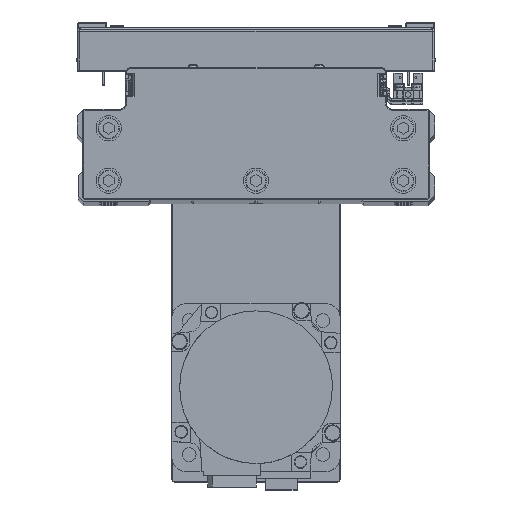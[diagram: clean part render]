
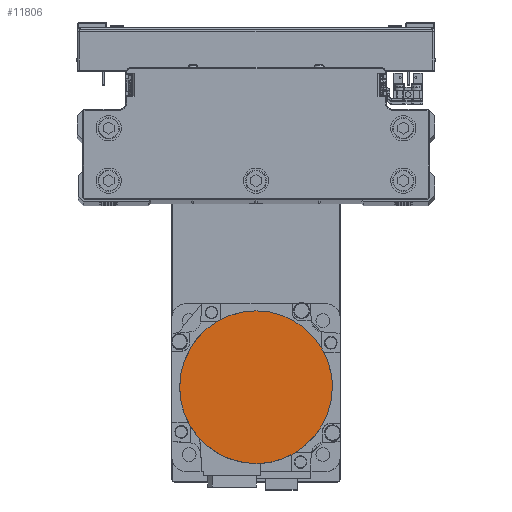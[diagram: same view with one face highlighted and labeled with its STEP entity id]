
A CAD part, top view. The second image highlights one B-rep face of the part: STEP entity #11806.
In plain terms, the highlighted planar face has unit normal (0, 0, 1) as drawn and (0, 0, -1) by its records, which use the part's own axes.
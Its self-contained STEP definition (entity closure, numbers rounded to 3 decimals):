
#858 = CARTESIAN_POINT ( 'NONE',  ( -18.192, 31.502, -122.2 ) ) ;
#1519 = ORIENTED_EDGE ( 'NONE', *, *, #21648, .F. ) ;
#1570 = CARTESIAN_POINT ( 'NONE',  ( -22.143, -28.862, -122.2 ) ) ;
#1579 = B_SPLINE_CURVE_WITH_KNOTS ( 'NONE', 3,
 ( #7675, #21472, #35300, #4251, #18066, #31915, #858, #14682, #28510, #42333, #11303, #25113, #38926, #7890, #21683, #35517, #4470, #18281 ),
 .UNSPECIFIED., .F., .F.,
 ( 4, 2, 2, 2, 2, 2, 2, 2, 4 ),
 ( 0., 0.125, 0.25, 0.375, 0.5, 0.625, 0.75, 0.875, 1. ),
 .UNSPECIFIED. ) ;
#4251 = CARTESIAN_POINT ( 'NONE',  ( -9.412, 35.139, -122.2 ) ) ;
#4470 = CARTESIAN_POINT ( 'NONE',  ( -36.3, 2.376, -122.2 ) ) ;
#4985 = CARTESIAN_POINT ( 'NONE',  ( -28.862, -22.143, -122.2 ) ) ;
#7163 = CARTESIAN_POINT ( 'NONE',  ( 0., 0., -122.2 ) ) ;
#7675 = CARTESIAN_POINT ( 'NONE',  ( 0., 36.3, -122.2 ) ) ;
#7890 = CARTESIAN_POINT ( 'NONE',  ( -34.446, 11.696, -122.2 ) ) ;
#8400 = CARTESIAN_POINT ( 'NONE',  ( -34.446, -11.696, -122.2 ) ) ;
#8613 = CARTESIAN_POINT ( 'NONE',  ( 0., -36.3, -122.2 ) ) ;
#10516 = EDGE_CURVE ( 'NONE', #23339, #13774, #12918, .T. ) ;
#10985 = CARTESIAN_POINT ( 'NONE',  ( -36.3, 0., -122.2 ) ) ;
#11303 = CARTESIAN_POINT ( 'NONE',  ( -28.862, 22.143, -122.2 ) ) ;
#11546 = VERTEX_POINT ( 'NONE', #31546 ) ;
#11792 = CARTESIAN_POINT ( 'NONE',  ( -36.3, -2.376, -122.2 ) ) ;
#11806 = ADVANCED_FACE ( 'NONE', ( #16069 ), #29896, .F. ) ;
#12020 = CARTESIAN_POINT ( 'NONE',  ( -9.412, -35.139, -122.2 ) ) ;
#12694 = DIRECTION ( 'NONE',  ( 0., 0., 1. ) ) ;
#12918 = B_SPLINE_CURVE_WITH_KNOTS ( 'NONE', 3,
 ( #42832, #11792, #25609, #39440, #8400, #22193, #36021, #4985, #18791, #32633, #1570, #15405, #29231, #43059, #12020, #25836, #39660, #8613 ),
 .UNSPECIFIED., .F., .F.,
 ( 4, 2, 2, 2, 2, 2, 2, 2, 4 ),
 ( 0., 0.125, 0.25, 0.375, 0.5, 0.625, 0.75, 0.875, 1. ),
 .UNSPECIFIED. ) ;
#13713 = ORIENTED_EDGE ( 'NONE', *, *, #10516, .F. ) ;
#13774 = VERTEX_POINT ( 'NONE', #44241 ) ;
#14598 = CARTESIAN_POINT ( 'NONE',  ( 0., 0., -122.2 ) ) ;
#14666 = CIRCLE ( 'NONE', #39985, 36.3 ) ;
#14682 = CARTESIAN_POINT ( 'NONE',  ( -22.143, 28.862, -122.2 ) ) ;
#15405 = CARTESIAN_POINT ( 'NONE',  ( -18.192, -31.502, -122.2 ) ) ;
#16069 = FACE_OUTER_BOUND ( 'NONE', #43872, .T. ) ;
#17938 = CIRCLE ( 'NONE', #43276, 36.3 ) ;
#18066 = CARTESIAN_POINT ( 'NONE',  ( -11.696, 34.446, -122.2 ) ) ;
#18281 = CARTESIAN_POINT ( 'NONE',  ( -36.3, 0., -122.2 ) ) ;
#18791 = CARTESIAN_POINT ( 'NONE',  ( -27.348, -23.988, -122.2 ) ) ;
#20967 = DIRECTION ( 'NONE',  ( 0., 0., 1. ) ) ;
#21472 = CARTESIAN_POINT ( 'NONE',  ( -2.376, 36.3, -122.2 ) ) ;
#21648 = EDGE_CURVE ( 'NONE', #13774, #11546, #17938, .T. ) ;
#21683 = CARTESIAN_POINT ( 'NONE',  ( -35.139, 9.412, -122.2 ) ) ;
#22193 = CARTESIAN_POINT ( 'NONE',  ( -32.628, -16.086, -122.2 ) ) ;
#23339 = VERTEX_POINT ( 'NONE', #10985 ) ;
#25113 = CARTESIAN_POINT ( 'NONE',  ( -31.502, 18.192, -122.2 ) ) ;
#25609 = CARTESIAN_POINT ( 'NONE',  ( -36.066, -4.752, -122.2 ) ) ;
#25836 = CARTESIAN_POINT ( 'NONE',  ( -4.752, -36.066, -122.2 ) ) ;
#26237 = CARTESIAN_POINT ( 'NONE',  ( 0., 36.3, -122.2 ) ) ;
#26509 = DIRECTION ( 'NONE',  ( 1., 0., 0. ) ) ;
#28419 = DIRECTION ( 'NONE',  ( 0., 0., 1. ) ) ;
#28510 = CARTESIAN_POINT ( 'NONE',  ( -23.988, 27.348, -122.2 ) ) ;
#29231 = CARTESIAN_POINT ( 'NONE',  ( -16.086, -32.628, -122.2 ) ) ;
#29896 = PLANE ( 'NONE',  #36297 ) ;
#31546 = CARTESIAN_POINT ( 'NONE',  ( 36.3, 0., -122.2 ) ) ;
#31915 = CARTESIAN_POINT ( 'NONE',  ( -16.086, 32.628, -122.2 ) ) ;
#32633 = CARTESIAN_POINT ( 'NONE',  ( -23.988, -27.348, -122.2 ) ) ;
#32845 = ORIENTED_EDGE ( 'NONE', *, *, #41109, .F. ) ;
#34800 = DIRECTION ( 'NONE',  ( -1., 0., 0. ) ) ;
#35300 = CARTESIAN_POINT ( 'NONE',  ( -4.752, 36.066, -122.2 ) ) ;
#35517 = CARTESIAN_POINT ( 'NONE',  ( -36.066, 4.752, -122.2 ) ) ;
#36021 = CARTESIAN_POINT ( 'NONE',  ( -31.502, -18.192, -122.2 ) ) ;
#36297 = AXIS2_PLACEMENT_3D ( 'NONE', #43733, #12694, #26509 ) ;
#38926 = CARTESIAN_POINT ( 'NONE',  ( -32.628, 16.086, -122.2 ) ) ;
#39440 = CARTESIAN_POINT ( 'NONE',  ( -35.139, -9.412, -122.2 ) ) ;
#39571 = EDGE_CURVE ( 'NONE', #43632, #23339, #1579, .T. ) ;
#39660 = CARTESIAN_POINT ( 'NONE',  ( -2.376, -36.3, -122.2 ) ) ;
#39985 = AXIS2_PLACEMENT_3D ( 'NONE', #7163, #20967, #34800 ) ;
#40416 = ORIENTED_EDGE ( 'NONE', *, *, #39571, .F. ) ;
#41109 = EDGE_CURVE ( 'NONE', #11546, #43632, #14666, .T. ) ;
#42234 = DIRECTION ( 'NONE',  ( -1., 0., 0. ) ) ;
#42333 = CARTESIAN_POINT ( 'NONE',  ( -27.348, 23.988, -122.2 ) ) ;
#42832 = CARTESIAN_POINT ( 'NONE',  ( -36.3, 0., -122.2 ) ) ;
#43059 = CARTESIAN_POINT ( 'NONE',  ( -11.696, -34.446, -122.2 ) ) ;
#43276 = AXIS2_PLACEMENT_3D ( 'NONE', #14598, #28419, #42234 ) ;
#43632 = VERTEX_POINT ( 'NONE', #26237 ) ;
#43733 = CARTESIAN_POINT ( 'NONE',  ( 0., 0., -122.2 ) ) ;
#43872 = EDGE_LOOP ( 'NONE', ( #1519, #13713, #40416, #32845 ) ) ;
#44241 = CARTESIAN_POINT ( 'NONE',  ( 0., -36.3, -122.2 ) ) ;
